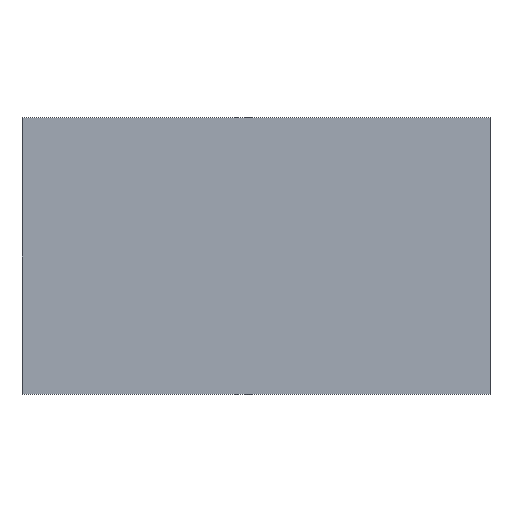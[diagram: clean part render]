
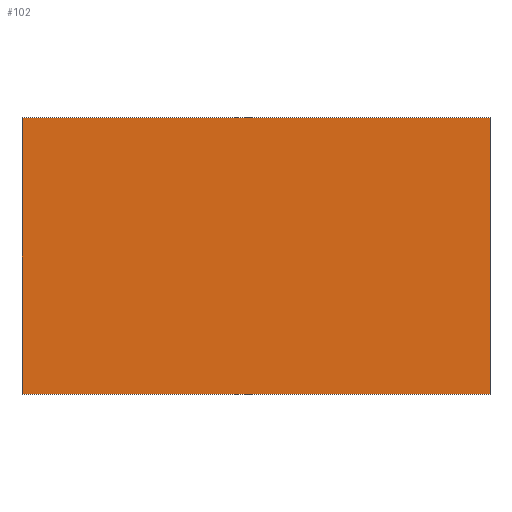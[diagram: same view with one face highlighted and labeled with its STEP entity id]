
A CAD part, top view. The second image highlights one B-rep face of the part: STEP entity #102.
In plain terms, the highlighted planar face has unit normal (0, 0, 1).
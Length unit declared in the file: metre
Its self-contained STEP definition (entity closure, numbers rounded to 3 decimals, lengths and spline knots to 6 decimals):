
#28=ORIENTED_EDGE('',*,*,#38,.F.);
#29=ORIENTED_EDGE('',*,*,#42,.T.);
#30=ORIENTED_EDGE('',*,*,#45,.T.);
#31=ORIENTED_EDGE('',*,*,#47,.F.);
#38=EDGE_CURVE('',#50,#51,#58,.T.);
#42=EDGE_CURVE('',#50,#53,#62,.T.);
#45=EDGE_CURVE('',#53,#55,#65,.T.);
#47=EDGE_CURVE('',#51,#55,#67,.T.);
#50=VERTEX_POINT('',#155);
#51=VERTEX_POINT('',#157);
#53=VERTEX_POINT('',#163);
#55=VERTEX_POINT('',#169);
#58=LINE('',#156,#70);
#62=LINE('',#164,#74);
#65=LINE('',#170,#77);
#67=LINE('',#173,#79);
#70=VECTOR('',#129,1.);
#74=VECTOR('',#135,1.);
#77=VECTOR('',#140,1.);
#79=VECTOR('',#144,1.);
#84=EDGE_LOOP('',(#28,#29,#30,#31));
#90=FACE_BOUND('',#84,.T.);
#96=PLANE('',#121);
#102=ADVANCED_FACE('',(#90),#96,.T.);
#121=AXIS2_PLACEMENT_3D('',#174,#145,#146);
#129=DIRECTION('',(-1.,0.,0.));
#135=DIRECTION('',(0.,1.,0.));
#140=DIRECTION('',(-1.,0.,0.));
#144=DIRECTION('',(0.,1.,0.));
#145=DIRECTION('',(0.,0.,1.));
#146=DIRECTION('',(1.,0.,0.));
#155=CARTESIAN_POINT('',(0.038825,0.068549,0.00451));
#156=CARTESIAN_POINT('',(-0.010225,0.068549,0.00451));
#157=CARTESIAN_POINT('',(-0.055275,0.068549,0.00451));
#163=CARTESIAN_POINT('',(0.038825,0.124199,0.00451));
#164=CARTESIAN_POINT('',(0.038825,0.096374,0.00451));
#169=CARTESIAN_POINT('',(-0.055275,0.124199,0.00451));
#170=CARTESIAN_POINT('',(-0.010225,0.124199,0.00451));
#173=CARTESIAN_POINT('',(-0.055275,0.096374,0.00451));
#174=CARTESIAN_POINT('',(-0.008225,0.096374,0.00451));
